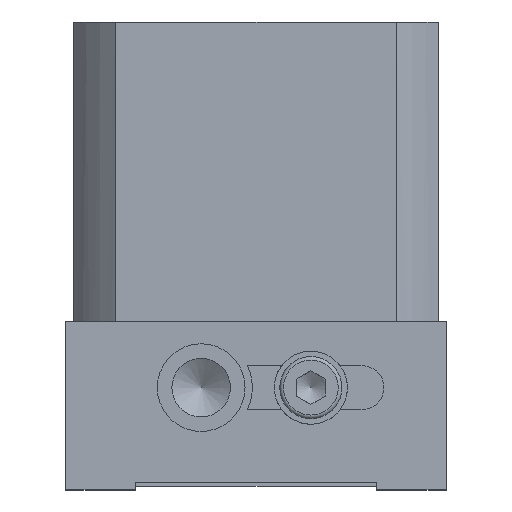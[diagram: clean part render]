
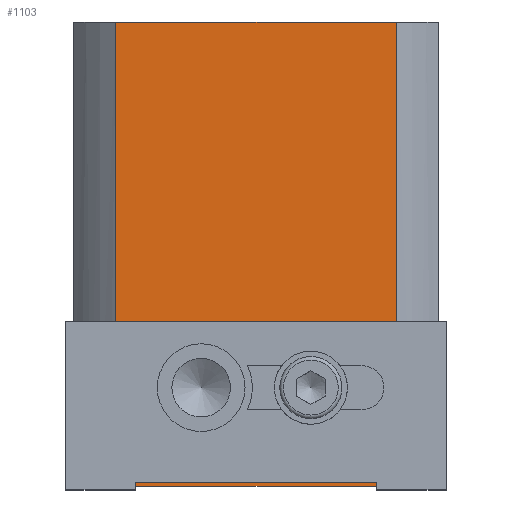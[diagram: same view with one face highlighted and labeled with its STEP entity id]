
A CAD part, left-side view. The second image highlights one B-rep face of the part: STEP entity #1103.
In plain terms, the highlighted planar face has unit normal (-1, 0, 0).
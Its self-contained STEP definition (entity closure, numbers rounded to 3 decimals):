
#1042=CARTESIAN_POINT('',(-25.,44.164,0.0));
#1043=DIRECTION('',(-1.0,0.0,0.0));
#1044=DIRECTION('',(0.0,0.0,1.0));
#1045=AXIS2_PLACEMENT_3D('',#1042,#1043,#1044);
#1046=PLANE('',#1045);
#1047=CARTESIAN_POINT('',(-25.,5.836,0.0));
#1048=VERTEX_POINT('',#1047);
#1049=CARTESIAN_POINT('',(-25.,5.836,-63.5));
#1050=VERTEX_POINT('',#1049);
#1051=CARTESIAN_POINT('',(-25.,5.836,0.0));
#1052=DIRECTION('',(0.0,0.0,-1.0));
#1053=VECTOR('',#1052,63.5);
#1054=LINE('',#1051,#1053);
#1055=EDGE_CURVE('',#1048,#1050,#1054,.T.);
#1056=ORIENTED_EDGE('',*,*,#1055,.F.);
#1057=CARTESIAN_POINT('',(-25.,44.164,0.0));
#1058=VERTEX_POINT('',#1057);
#1059=CARTESIAN_POINT('',(-25.,44.164,0.0));
#1060=DIRECTION('',(0.0,-1.0,0.0));
#1061=VECTOR('',#1060,38.328);
#1062=LINE('',#1059,#1061);
#1063=EDGE_CURVE('',#1058,#1048,#1062,.T.);
#1064=ORIENTED_EDGE('',*,*,#1063,.F.);
#1065=CARTESIAN_POINT('',(-25.,44.164,-63.5));
#1066=VERTEX_POINT('',#1065);
#1067=CARTESIAN_POINT('',(-25.,44.164,0.0));
#1068=DIRECTION('',(0.0,0.0,-1.0));
#1069=VECTOR('',#1068,63.5);
#1070=LINE('',#1067,#1069);
#1071=EDGE_CURVE('',#1058,#1066,#1070,.T.);
#1072=ORIENTED_EDGE('',*,*,#1071,.T.);
#1073=CARTESIAN_POINT('',(-25.,44.164,-63.5));
#1074=DIRECTION('',(0.0,-1.0,0.0));
#1075=VECTOR('',#1074,38.328);
#1076=LINE('',#1073,#1075);
#1077=EDGE_CURVE('',#1066,#1050,#1076,.T.);
#1078=ORIENTED_EDGE('',*,*,#1077,.T.);
#1079=EDGE_LOOP('',(#1056,#1064,#1072,#1078));
#1080=FACE_OUTER_BOUND('',#1079,.T.);
#1081=CARTESIAN_POINT('',(-25.,32.5,-44.0));
#1082=VERTEX_POINT('',#1081);
#1083=CARTESIAN_POINT('',(-25.,32.5,-50.));
#1084=DIRECTION('',(-1.0,0.0,0.0));
#1085=DIRECTION('',(0.0,1.0,0.0));
#1086=AXIS2_PLACEMENT_3D('',#1083,#1084,#1085);
#1087=CIRCLE('',#1086,6.);
#1088=EDGE_CURVE('',#1082,#1082,#1087,.T.);
#1089=ORIENTED_EDGE('',*,*,#1088,.F.);
#1090=EDGE_LOOP('',(#1089));
#1091=FACE_BOUND('',#1090,.T.);
#1092=CARTESIAN_POINT('',(-25.,17.5,-44.0));
#1093=VERTEX_POINT('',#1092);
#1094=CARTESIAN_POINT('',(-25.0,17.5,-50.));
#1095=DIRECTION('',(-1.0,0.0,0.0));
#1096=DIRECTION('',(0.0,-1.0,0.0));
#1097=AXIS2_PLACEMENT_3D('',#1094,#1095,#1096);
#1098=CIRCLE('',#1097,6.);
#1099=EDGE_CURVE('',#1093,#1093,#1098,.T.);
#1100=ORIENTED_EDGE('',*,*,#1099,.F.);
#1101=EDGE_LOOP('',(#1100));
#1102=FACE_BOUND('',#1101,.T.);
#1103=ADVANCED_FACE('',(#1080,#1091,#1102),#1046,.T.);
